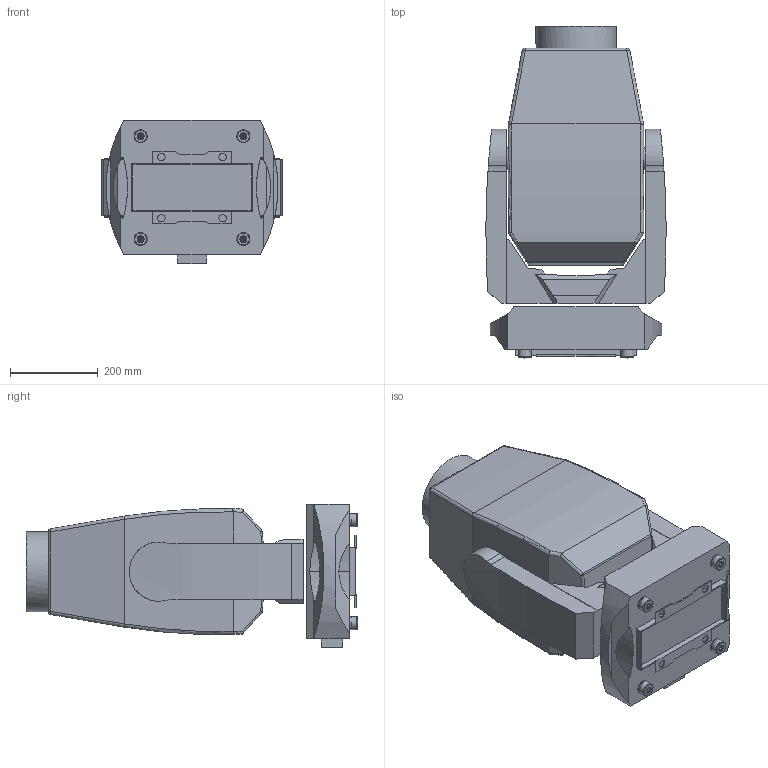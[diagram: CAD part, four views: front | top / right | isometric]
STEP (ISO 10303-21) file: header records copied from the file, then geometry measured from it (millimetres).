
FILE_DESCRIPTION(/* description */ (''),/* implementation_level */ '2;1');
FILE_NAME(/* name */ 'D:/dgooch/Documents/CADENG/PRO/MK3 Spot/0/Maverick MK3 Spot_0.step',/* time_stamp */ '2019-03-18T12:06:46-04:00',/* author */ (''),/* organization */ (''),/* preprocessor_version */ 'ST-DEVELOPER v17.2',/* originating_system */ 'Autodesk Translation Framework v7.6.0.251',/* authorisation */ '');
FILE_SCHEMA (('AUTOMOTIVE_DESIGN { 1 0 10303 214 3 1 1 }'));
Length unit declared in the file: millimetre
Products named in the file (8): Maverick MK3 Spot; Maverick MK2 Profile; Base; CD-JD30-21_ASM_1_ASM (1); JJ-D30-01_1 (1); JJ-D30-02_1 (1); Arms; Head_MK
Assembly tree (10 placements, depth 5):
  Maverick MK3 Spot
    Maverick MK2 Profile
      Base
        CD-JD30-21_ASM_1_ASM (1)  x4
          JJ-D30-01_1 (1)
          JJ-D30-02_1 (1)
      Arms
      Head_MK
Bounding box: 411.79 x 758.28 x 326.81 mm (x, y, z)
Volume: 54861106.8 mm3; surface area: 1664500.8 mm2
Topology: 12 solids, 12 shells, 413 faces, 1222 edges, 871 vertices
Faces by surface type: plane 176, cylinder 141, cone 60, bspline 16, torus 12, sphere 8
Full cylindrical faces by diameter (mm): 4.1 x4, 5 x40, 10 x8, 15 x16, 17 x4, 27 x16, 30 x12, 50 x2, 165.644 x1, 183.319 x1
Entity records: 9105 total; most frequent: CARTESIAN_POINT 2148, DIRECTION 1456, ORIENTED_EDGE 1418, EDGE_CURVE 709, AXIS2_PLACEMENT_3D 535, VERTEX_POINT 484, LINE 386, VECTOR 386
